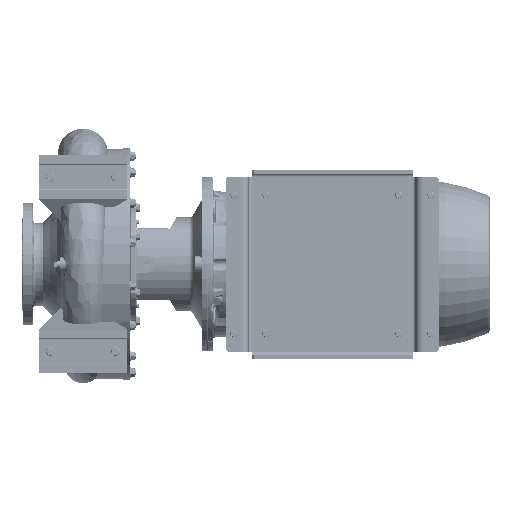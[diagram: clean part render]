
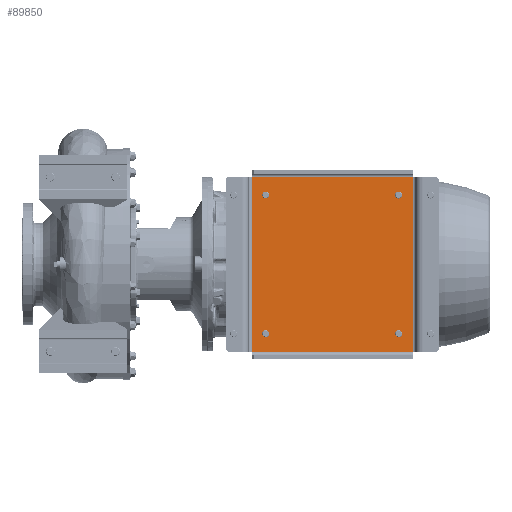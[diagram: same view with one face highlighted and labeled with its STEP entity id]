
A CAD part, front view. The second image highlights one B-rep face of the part: STEP entity #89850.
In plain terms, the highlighted planar face has unit normal (0, -1, 0).
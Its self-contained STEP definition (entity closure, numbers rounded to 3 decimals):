
#4893 = DIRECTION ( 'NONE',  ( 0., 0., -1. ) ) ;
#6509 = ORIENTED_EDGE ( 'NONE', *, *, #138030, .T. ) ;
#7001 = AXIS2_PLACEMENT_3D ( 'NONE', #223552, #157771, #108891 ) ;
#13457 = LINE ( 'NONE', #176903, #24344 ) ;
#19175 = CIRCLE ( 'NONE', #258264, 8. ) ;
#21121 = DIRECTION ( 'NONE',  ( 0., 1., 0. ) ) ;
#23441 = CARTESIAN_POINT ( 'NONE',  ( 59., 106., -16. ) ) ;
#24344 = VECTOR ( 'NONE', #155486, 1000. ) ;
#25067 = EDGE_CURVE ( 'NONE', #191417, #218685, #249705, .T. ) ;
#25286 = FACE_BOUND ( 'NONE', #169000, .T. ) ;
#26779 = PLANE ( 'NONE',  #121012 ) ;
#30926 = EDGE_CURVE ( 'NONE', #214912, #51851, #104444, .T. ) ;
#36106 = EDGE_LOOP ( 'NONE', ( #150045, #188012 ) ) ;
#42983 = VERTEX_POINT ( 'NONE', #194277 ) ;
#45364 = CARTESIAN_POINT ( 'NONE',  ( 91.5, 106., -368. ) ) ;
#51851 = VERTEX_POINT ( 'NONE', #169746 ) ;
#56703 = CARTESIAN_POINT ( 'NONE',  ( 91.5, 106., -384. ) ) ;
#58318 = EDGE_CURVE ( 'NONE', #262296, #42983, #269584, .T. ) ;
#66128 = CARTESIAN_POINT ( 'NONE',  ( 396.5, 106., -58. ) ) ;
#67533 = DIRECTION ( 'NONE',  ( 0., 0., -1. ) ) ;
#68406 = CARTESIAN_POINT ( 'NONE',  ( 91.5, 106., -376. ) ) ;
#70509 = CARTESIAN_POINT ( 'NONE',  ( 59., 106., -418. ) ) ;
#73417 = VERTEX_POINT ( 'NONE', #187760 ) ;
#73481 = LINE ( 'NONE', #238457, #149317 ) ;
#74105 = FACE_BOUND ( 'NONE', #96316, .T. ) ;
#77143 = VERTEX_POINT ( 'NONE', #116725 ) ;
#77865 = CARTESIAN_POINT ( 'NONE',  ( 91.5, 106., -376. ) ) ;
#77867 = ORIENTED_EDGE ( 'NONE', *, *, #94336, .T. ) ;
#84603 = CARTESIAN_POINT ( 'NONE',  ( 429., 106., -418. ) ) ;
#86618 = EDGE_CURVE ( 'NONE', #42983, #178671, #73481, .T. ) ;
#89850 = ADVANCED_FACE ( 'NONE', ( #164282, #118422, #286497, #74105, #25286 ), #26779, .T. ) ;
#94336 = EDGE_CURVE ( 'NONE', #73417, #77143, #171533, .T. ) ;
#96316 = EDGE_LOOP ( 'NONE', ( #242389, #141814 ) ) ;
#104444 = CIRCLE ( 'NONE', #7001, 8. ) ;
#105121 = DIRECTION ( 'NONE',  ( 0., 1., 0. ) ) ;
#105961 = EDGE_CURVE ( 'NONE', #178671, #161513, #163938, .T. ) ;
#108891 = DIRECTION ( 'NONE',  ( 0., 0., -1. ) ) ;
#112734 = AXIS2_PLACEMENT_3D ( 'NONE', #66128, #296998, #226655 ) ;
#114234 = DIRECTION ( 'NONE',  ( 0., 0., -1. ) ) ;
#115995 = EDGE_LOOP ( 'NONE', ( #77867, #247852 ) ) ;
#116573 = DIRECTION ( 'NONE',  ( -1., 0., 0. ) ) ;
#116725 = CARTESIAN_POINT ( 'NONE',  ( 91.5, 106., -66. ) ) ;
#117761 = CIRCLE ( 'NONE', #112734, 8. ) ;
#118422 = FACE_BOUND ( 'NONE', #115995, .T. ) ;
#121012 = AXIS2_PLACEMENT_3D ( 'NONE', #170291, #257566, #144354 ) ;
#124909 = EDGE_CURVE ( 'NONE', #218685, #191417, #219026, .T. ) ;
#124998 = CARTESIAN_POINT ( 'NONE',  ( 396.5, 106., -376. ) ) ;
#128558 = VERTEX_POINT ( 'NONE', #56703 ) ;
#131498 = CARTESIAN_POINT ( 'NONE',  ( 429., 106., -16. ) ) ;
#135326 = CIRCLE ( 'NONE', #179218, 8. ) ;
#138030 = EDGE_CURVE ( 'NONE', #161513, #262296, #13457, .T. ) ;
#141814 = ORIENTED_EDGE ( 'NONE', *, *, #212589, .T. ) ;
#143740 = DIRECTION ( 'NONE',  ( 0., 0., 1. ) ) ;
#144354 = DIRECTION ( 'NONE',  ( 0., 0., -1. ) ) ;
#146633 = DIRECTION ( 'NONE',  ( 0., 1., 0. ) ) ;
#149317 = VECTOR ( 'NONE', #143740, 1000. ) ;
#150045 = ORIENTED_EDGE ( 'NONE', *, *, #25067, .T. ) ;
#155486 = DIRECTION ( 'NONE',  ( 0., 0., -1. ) ) ;
#157771 = DIRECTION ( 'NONE',  ( 0., 1., 0. ) ) ;
#160366 = AXIS2_PLACEMENT_3D ( 'NONE', #124998, #105121, #270232 ) ;
#161513 = VERTEX_POINT ( 'NONE', #242160 ) ;
#161583 = VECTOR ( 'NONE', #177807, 1000. ) ;
#163938 = LINE ( 'NONE', #23441, #227782 ) ;
#164084 = AXIS2_PLACEMENT_3D ( 'NONE', #77865, #146633, #265859 ) ;
#164282 = FACE_OUTER_BOUND ( 'NONE', #286436, .T. ) ;
#169000 = EDGE_LOOP ( 'NONE', ( #283202, #216960 ) ) ;
#169746 = CARTESIAN_POINT ( 'NONE',  ( 396.5, 106., -50. ) ) ;
#170291 = CARTESIAN_POINT ( 'NONE',  ( 0., 106., 0. ) ) ;
#171533 = CIRCLE ( 'NONE', #264323, 8. ) ;
#172836 = CARTESIAN_POINT ( 'NONE',  ( 396.5, 106., -376. ) ) ;
#176903 = CARTESIAN_POINT ( 'NONE',  ( 59., 106., -418. ) ) ;
#177807 = DIRECTION ( 'NONE',  ( 1., 0., 0. ) ) ;
#178671 = VERTEX_POINT ( 'NONE', #131498 ) ;
#179218 = AXIS2_PLACEMENT_3D ( 'NONE', #68406, #21121, #114234 ) ;
#179735 = CARTESIAN_POINT ( 'NONE',  ( 396.5, 106., -368. ) ) ;
#182962 = CARTESIAN_POINT ( 'NONE',  ( 396.5, 106., -384. ) ) ;
#183662 = DIRECTION ( 'NONE',  ( 0., 1., 0. ) ) ;
#187760 = CARTESIAN_POINT ( 'NONE',  ( 91.5, 106., -50. ) ) ;
#188012 = ORIENTED_EDGE ( 'NONE', *, *, #124909, .T. ) ;
#189036 = VERTEX_POINT ( 'NONE', #45364 ) ;
#191266 = DIRECTION ( 'NONE',  ( 0., 1., 0. ) ) ;
#191417 = VERTEX_POINT ( 'NONE', #179735 ) ;
#194277 = CARTESIAN_POINT ( 'NONE',  ( 429., 106., -418. ) ) ;
#197544 = DIRECTION ( 'NONE',  ( 0., 0., -1. ) ) ;
#198751 = EDGE_CURVE ( 'NONE', #77143, #73417, #19175, .T. ) ;
#207998 = ORIENTED_EDGE ( 'NONE', *, *, #105961, .T. ) ;
#211106 = CARTESIAN_POINT ( 'NONE',  ( 91.5, 106., -58. ) ) ;
#212589 = EDGE_CURVE ( 'NONE', #128558, #189036, #135326, .T. ) ;
#214912 = VERTEX_POINT ( 'NONE', #294094 ) ;
#216960 = ORIENTED_EDGE ( 'NONE', *, *, #30926, .T. ) ;
#218685 = VERTEX_POINT ( 'NONE', #182962 ) ;
#219026 = CIRCLE ( 'NONE', #160366, 8. ) ;
#223552 = CARTESIAN_POINT ( 'NONE',  ( 396.5, 106., -58. ) ) ;
#224618 = EDGE_CURVE ( 'NONE', #189036, #128558, #266685, .T. ) ;
#226655 = DIRECTION ( 'NONE',  ( 0., 0., -1. ) ) ;
#227782 = VECTOR ( 'NONE', #116573, 1000. ) ;
#230271 = AXIS2_PLACEMENT_3D ( 'NONE', #172836, #191266, #4893 ) ;
#238457 = CARTESIAN_POINT ( 'NONE',  ( 429., 106., -16. ) ) ;
#242160 = CARTESIAN_POINT ( 'NONE',  ( 59., 106., -16. ) ) ;
#242389 = ORIENTED_EDGE ( 'NONE', *, *, #224618, .T. ) ;
#247852 = ORIENTED_EDGE ( 'NONE', *, *, #198751, .T. ) ;
#249705 = CIRCLE ( 'NONE', #230271, 8. ) ;
#253680 = EDGE_CURVE ( 'NONE', #51851, #214912, #117761, .T. ) ;
#257566 = DIRECTION ( 'NONE',  ( 0., -1., 0. ) ) ;
#258264 = AXIS2_PLACEMENT_3D ( 'NONE', #211106, #183662, #67533 ) ;
#262296 = VERTEX_POINT ( 'NONE', #70509 ) ;
#264323 = AXIS2_PLACEMENT_3D ( 'NONE', #289337, #266418, #197544 ) ;
#265859 = DIRECTION ( 'NONE',  ( 0., 0., -1. ) ) ;
#266418 = DIRECTION ( 'NONE',  ( 0., 1., 0. ) ) ;
#266685 = CIRCLE ( 'NONE', #164084, 8. ) ;
#269584 = LINE ( 'NONE', #84603, #161583 ) ;
#270232 = DIRECTION ( 'NONE',  ( 0., 0., -1. ) ) ;
#273887 = ORIENTED_EDGE ( 'NONE', *, *, #86618, .T. ) ;
#283202 = ORIENTED_EDGE ( 'NONE', *, *, #253680, .T. ) ;
#283973 = ORIENTED_EDGE ( 'NONE', *, *, #58318, .T. ) ;
#286436 = EDGE_LOOP ( 'NONE', ( #6509, #283973, #273887, #207998 ) ) ;
#286497 = FACE_BOUND ( 'NONE', #36106, .T. ) ;
#289337 = CARTESIAN_POINT ( 'NONE',  ( 91.5, 106., -58. ) ) ;
#294094 = CARTESIAN_POINT ( 'NONE',  ( 396.5, 106., -66. ) ) ;
#296998 = DIRECTION ( 'NONE',  ( 0., 1., 0. ) ) ;
